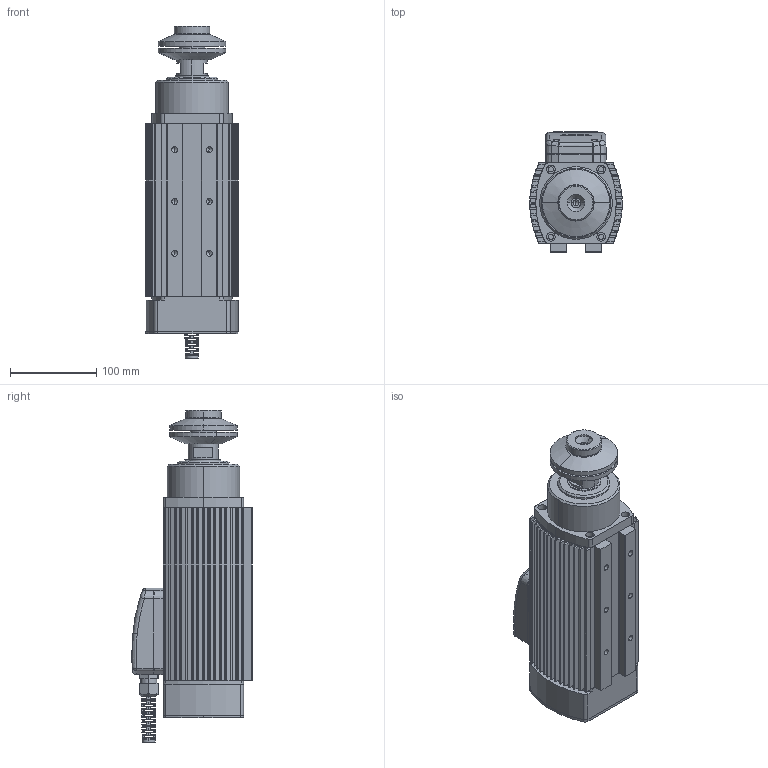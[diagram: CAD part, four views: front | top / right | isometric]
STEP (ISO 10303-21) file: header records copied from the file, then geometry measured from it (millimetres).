
FILE_DESCRIPTION (( 'STEP AP203' ), '1' );
FILE_NAME ('ARFM.3Y-M Flanslý.STEP', '2024-05-23T09:06:58', ( '' ), ( '' ), 'SwSTEP 2.0', 'SolidWorks 2014', '' );
FILE_SCHEMA (( 'CONFIG_CONTROL_DESIGN' ));
Length unit declared in the file: millimetre
Products named in the file (18): Klemens Kutusu Kapaðý Kademeli; Flans; Arfm.3Y Arka Kapaðý; rekor3; ARFM.3Y-M Flanslý; Arfm.3Y Ön Toz Kapaðý 62 lik; klemens kutusu montaj tabansýz; rekor1; Flans Pulu; Arfm.3Y Hava Kapak; M4x10 inpus_91290A176; Klemens Kutusu  alt tabansýz; Arfm.3Y Yeni Rotor Mili Flanslý; Arfm.3Y-M Yeni Gövdesi; rekor2; 471-35 Sekman_98541A146; Arfm.3Y 琄 Kapak; Yukseltme Parcasi
Assembly tree (24 placements, depth 3):
  ARFM.3Y-M Flanslý
    Arfm.3Y-M Yeni Gövdesi
    Arfm.3Y Arka Kapaðý
    Arfm.3Y Hava Kapak
    Arfm.3Y 琄 Kapak
    Arfm.3Y Ön Toz Kapaðý 62 lik
    klemens kutusu montaj tabansýz
      Klemens Kutusu  alt tabansýz
      Klemens Kutusu Kapaðý Kademeli
      rekor1
      rekor2
      rekor3
      M4x10 inpus_91290A176  x4
      Yukseltme Parcasi  x4
    Arfm.3Y Yeni Rotor Mili Flanslý
    Flans  x2
    Flans Pulu
    471-35 Sekman_98541A146
Bounding box: 107 x 139.24 x 384 mm (x, y, z)
Volume: 2662454.6 mm3; surface area: 375834.5 mm2
Topology: 23 solids, 24 shells, 1925 faces, 5242 edges, 3375 vertices
Faces by surface type: cylinder 816, plane 761, cone 242, bspline 96, torus 8, sphere 2
Entity records: 61548 total; most frequent: CARTESIAN_POINT 19548, ORIENTED_EDGE 8802, DIRECTION 7819, EDGE_CURVE 4401, VERTEX_POINT 2850, AXIS2_PLACEMENT_3D 2824, LINE 2171, VECTOR 2171
